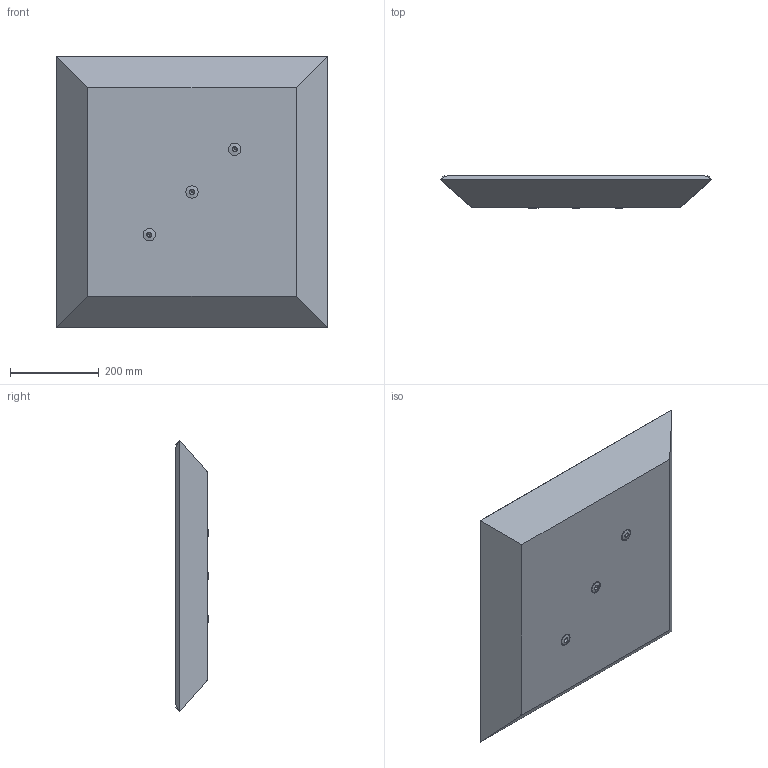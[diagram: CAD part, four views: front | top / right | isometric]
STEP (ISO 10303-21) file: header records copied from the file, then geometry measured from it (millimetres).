
FILE_DESCRIPTION (( 'STEP AP214' ), '1' );
FILE_NAME ('Spot Focus - Triple Slant - 3 In Deep Assembly - V5.STEP', '2022-12-07T14:39:02', ( '' ), ( '' ), 'SwSTEP 2.0', 'SolidWorks 2020', '' );
FILE_SCHEMA (( 'AUTOMOTIVE_DESIGN' ));
Length unit declared in the file: inch
Products named in the file (4): Hera LED Eye with Power Cable; 3 In Deep Extruded Tile Side - V5; Spot Focus - Triple Slant - 3 In Deep Assembly - V5; Spot Focus - Triple Slant - 3 In Deep Top - V5
Assembly tree (8 placements, depth 2):
  Spot Focus - Triple Slant - 3 In Deep Assembly - V5
    Spot Focus - Triple Slant - 3 In Deep Top - V5
    3 In Deep Extruded Tile Side - V5  x4
    Hera LED Eye with Power Cable  x3
Bounding box: 609.6 x 73.45 x 609.6 mm (x, y, z)
Volume: 4765989.3 mm3; surface area: 909537.2 mm2
Topology: 14 solids, 14 shells, 501 faces, 1251 edges, 811 vertices
Faces by surface type: plane 309, cylinder 141, bspline 36, sphere 9, cone 6
Entity records: 9022 total; most frequent: CARTESIAN_POINT 2664, ORIENTED_EDGE 856, DIRECTION 851, EDGE_CURVE 428, AXIS2_PLACEMENT_3D 287, VERTEX_POINT 279, VECTOR 277, LINE 277
